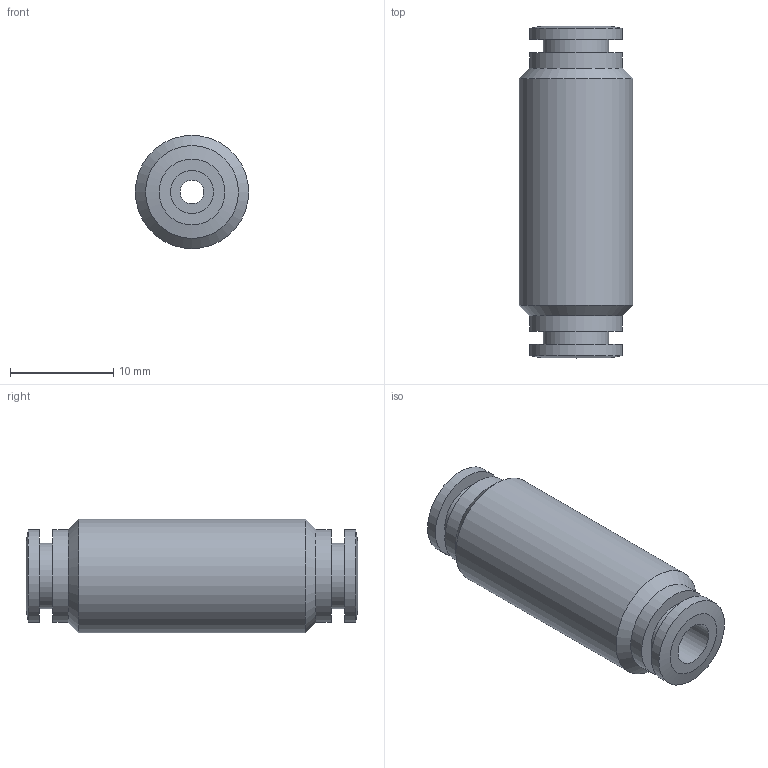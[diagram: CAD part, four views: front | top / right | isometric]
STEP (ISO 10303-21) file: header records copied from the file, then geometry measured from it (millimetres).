
FILE_DESCRIPTION((''),'2;1');
FILE_NAME('C:\Documents and Settings\rivolro1\Documenti\copia di Raccordi\PLASTICA\T10XX00\T100400.stp','2007-10-30T17:28:25',('Rivolro1'),(''),'Autodesk Inventor 2008','Autodesk Inventor 2008','');
FILE_SCHEMA(('AUTOMOTIVE_DESIGN { 1 0 10303 214 1 1 1 1 }'));
Length unit declared in the file: millimetre
Products named in the file (1): T100400
Bounding box: 11 x 32.2 x 11 mm (x, y, z)
Volume: 2279.1 mm3; surface area: 1689.8 mm2
Topology: 1 solids, 1 shells, 22 faces, 37 edges, 23 vertices
Faces by surface type: cylinder 8, plane 6, bspline 4, cone 4
Full cylindrical faces by diameter (mm): 2.3 x1, 6.4 x2, 9 x4, 11 x1
Entity records: 523 total; most frequent: CARTESIAN_POINT 107, DIRECTION 82, ORIENTED_EDGE 44, EDGE_LOOP 44, AXIS2_PLACEMENT_3D 41, VERTEX_POINT 22, CIRCLE 22, EDGE_CURVE 22
